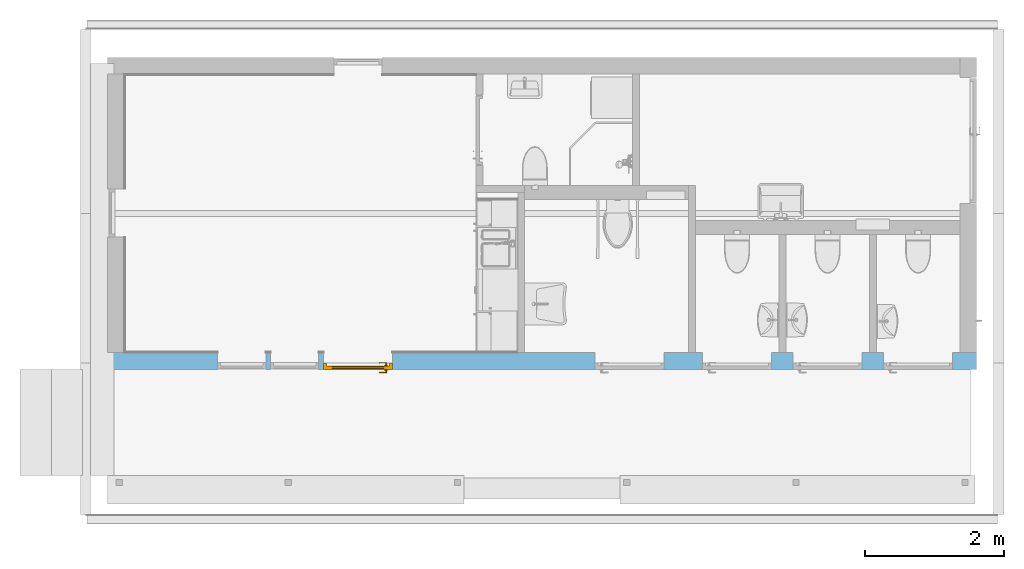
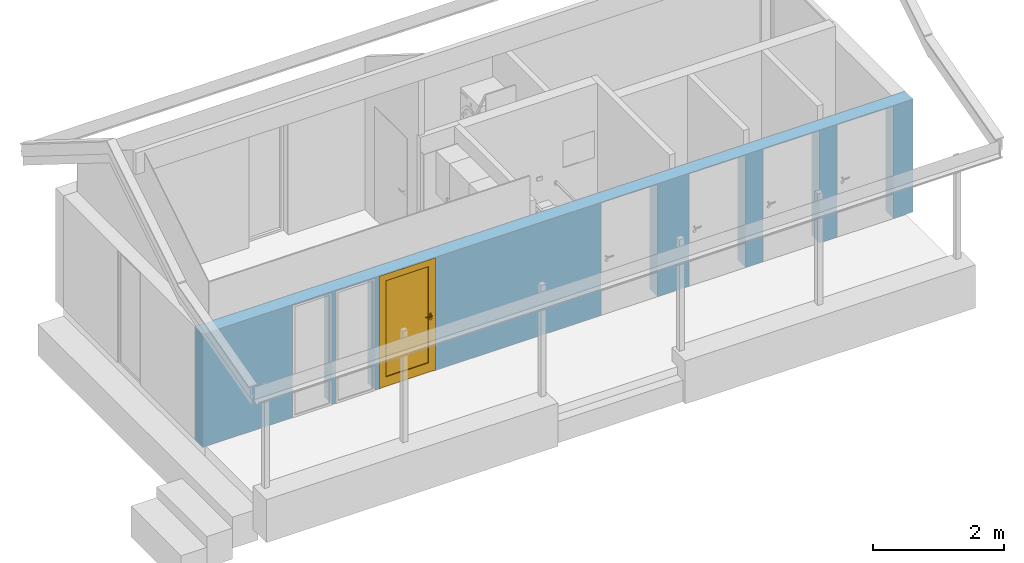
# One storey, part 6 of 15: 1 door, 7 openings, plus 1 element that does not belong to this part.
"""IFC2X3 building model written with IfcOpenShell, lengths in millimetres."""

from ifc_helpers import new_model, entity, si_unit, converted_unit, direction, frame, frame_2d, origin, place, context, subcontext, project, spatial, rectangle, extrude, faceted_brep, source, transform, mapped, material, material_list, layer, layer_set, layer_usage, type_object, type_shapes, element, fill, save


model = new_model("IFC2X3")

# Units and contexts
model_context = context("Model", 3, precision=0.01, world=origin(), true_north=direction((0.0, 1.0)))
body_context = subcontext(model_context, "Body", "Model", "MODEL_VIEW")
ifc_project = project(units=[si_unit("LENGTHUNIT", "METRE", prefix="MILLI"), si_unit("AREAUNIT", "SQUARE_METRE"), si_unit("VOLUMEUNIT", "CUBIC_METRE"), converted_unit("PLANEANGLEUNIT", "DEGREE", entity("IfcPlaneAngleMeasure", 0.017453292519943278), si_unit("PLANEANGLEUNIT", "RADIAN"), dimensions=[0, 0, 0, 0, 0, 0, 0])], contexts=[model_context])

# Site, building, storey
site_placement = place(None, origin())
site = spatial("IfcSite", under=ifc_project, at=site_placement, Name="Default", CompositionType="ELEMENT")
building_placement = place(site_placement, origin())
building = spatial("IfcBuilding", under=site, at=building_placement, CompositionType="ELEMENT")
storey_placement = place(building_placement, origin())
storey = spatial("IfcBuildingStorey", under=building, at=storey_placement, Name="Et. 1", CompositionType="ELEMENT", Elevation=0.0)

# Wall, openings, door
ifc_material_1 = material(Name="Vegg - Dobbelfals Stående Kledning - Mørkegrå")
ifc_layer_1 = layer(ifc_material_1, 19.0)
ifc_material_2 = material(Name="Default Floor")
ifc_layer_2 = layer(ifc_material_2, 36.0)
ifc_layer_3 = layer(ifc_material_2, 23.0)
ifc_layer_4 = layer(ifc_material_2, 12.0)
ifc_material_3 = material(Name="Vegg - Stender - Isolert")
ifc_layer_5 = layer(ifc_material_3, 150.0)
ifc_layer_set = layer_set([ifc_layer_1, ifc_layer_2, ifc_layer_3, ifc_layer_4, ifc_layer_5], Name="Basic Wall:Yttervegg stående kl")
ifc_layer_usage = layer_usage(ifc_layer_set, "AXIS2", "POSITIVE", -120.00000000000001)
wall_type = type_object("IfcWallType", Name="Basic Wall:Yttervegg stående kl", PredefinedType="STANDARD", material=ifc_layer_set)
wall_placement = place(storey_placement, frame((11310.567419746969, 11733.19026124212, 0.0)))
wall = element("IfcWallStandardCase", 1, at=wall_placement, inside=storey, type_object=wall_type, material=ifc_layer_usage, Name="Basic Wall:Yttervegg stående kl", context=body_context, shape_type="SweptSolid", body=[
    extrude(rectangle(XDim=12480.000000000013, YDim=240.00000000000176, at=frame_2d((6240.000000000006, 2.8421709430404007e-13), x_axis=(-1.0, 0.0))), origin(), (0.0, 0.0, 1.0), 2100.0),
])
opening_1_placement = place(wall_placement, frame((4090.0, 120.0, 0.0)))
opening_1 = element("IfcOpeningElement", 2, at=opening_1_placement, cuts=wall, Name="YD Glass:10x21M:1", ObjectType="Opening", context=body_context, shape_type="SweptSolid", body=[
    extrude(rectangle(XDim=990.0000000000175, YDim=2090.0000000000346, at=frame_2d((1045.0000000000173, 495.00000000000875), x_axis=(0.0, 1.0))), frame((0.0, 0.0, 0.0), z_axis=(0.0, -1.0, 0.0), x_axis=(0.0, 0.0, 1.0)), (0.0, 0.0, 1.0), 240.00000000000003),
])
opening_2_placement = place(wall_placement, frame((7990.0, 120.0, 0.0)))
element("IfcOpeningElement", 3, at=opening_2_placement, cuts=wall, Name="YD Hel:10x21M:1", ObjectType="Opening", context=body_context, shape_type="SweptSolid", body=[
    extrude(rectangle(XDim=990.0000000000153, YDim=2090.0000000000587, at=frame_2d((1045.0000000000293, 495.0000000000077), x_axis=(0.0, -1.0))), frame((0.0, 0.0, 0.0), z_axis=(0.0, -1.0, 0.0), x_axis=(0.0, 0.0, 1.0)), (0.0, 0.0, 1.0), 240.00000000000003),
])
opening_3_placement = place(wall_placement, frame((12135.0, 120.0, 0.0)))
element("IfcOpeningElement", 4, at=opening_3_placement, cuts=wall, Name="YD Hel:10x21M:1", ObjectType="Opening", context=body_context, shape_type="SweptSolid", body=[
    extrude(rectangle(XDim=990.0000000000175, YDim=2090.0000000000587, at=frame_2d((1045.0000000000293, 495.00000000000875), x_axis=(0.0, -1.0))), frame((0.0, 0.0, 0.0), z_axis=(0.0, -1.0, 0.0), x_axis=(0.0, 0.0, 1.0)), (0.0, 0.0, 1.0), 240.00000000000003),
])
opening_4_placement = place(wall_placement, frame((10835.0, 120.0, 0.0)))
element("IfcOpeningElement", 5, at=opening_4_placement, cuts=wall, Name="YD Hel:10x21M:1", ObjectType="Opening", context=body_context, shape_type="SweptSolid", body=[
    extrude(rectangle(XDim=990.0000000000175, YDim=2090.0000000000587, at=frame_2d((1045.0000000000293, 495.00000000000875), x_axis=(0.0, -1.0))), frame((0.0, 0.0, 0.0), z_axis=(0.0, -1.0, 0.0), x_axis=(0.0, 0.0, 1.0)), (0.0, 0.0, 1.0), 240.00000000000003),
])
opening_5_placement = place(wall_placement, frame((9535.0, 120.0, 0.0)))
element("IfcOpeningElement", 6, at=opening_5_placement, cuts=wall, Name="YD Hel:10x21M:1", ObjectType="Opening", context=body_context, shape_type="SweptSolid", body=[
    extrude(rectangle(XDim=990.0000000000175, YDim=2090.0000000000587, at=frame_2d((1045.0000000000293, 495.00000000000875), x_axis=(0.0, -1.0))), frame((0.0, 0.0, 0.0), z_axis=(0.0, -1.0, 0.0), x_axis=(0.0, 0.0, 1.0)), (0.0, 0.0, 1.0), 240.00000000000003),
])
opening_6_placement = place(wall_placement, frame((3030.0, 120.0, -10.0)))
element("IfcOpeningElement", 7, at=opening_6_placement, cuts=wall, Name="Hel Rute fast:7x21M:1", ObjectType="Opening", context=body_context, shape_type="SweptSolid", body=[
    extrude(rectangle(XDim=690.0000000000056, YDim=2090.000000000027, at=frame_2d((1045.0000000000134, 345.0000000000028), x_axis=(0.0, -1.0))), frame((0.0, 0.0, 0.0), z_axis=(0.0, -1.0, 0.0), x_axis=(0.0, 0.0, 1.0)), (0.0, 0.0, 1.0), 240.00000000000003),
])
opening_7_placement = place(wall_placement, frame((2270.0, 120.0, -10.0)))
element("IfcOpeningElement", 8, at=opening_7_placement, cuts=wall, Name="Hel Rute fast:7x21M:1", ObjectType="Opening", context=body_context, shape_type="SweptSolid", body=[
    extrude(rectangle(XDim=690.0000000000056, YDim=2090.000000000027, at=frame_2d((1045.0000000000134, 345.0000000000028), x_axis=(0.0, -1.0))), frame((0.0, 0.0, 0.0), z_axis=(0.0, -1.0, 0.0), x_axis=(0.0, 0.0, 1.0)), (0.0, 0.0, 1.0), 240.00000000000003),
])
ifc_material_4 = material(Name="Dør - Håndtak")
ifc_material_5 = material(Name="Glass - Klart")
ifc_material_6 = material(Name="Maling mørkegrå")
ifc_material_list = material_list([ifc_material_4, ifc_material_5, ifc_material_6])
door_style = type_object("IfcDoorStyle", Name="YD Glass:10x21M", ConstructionType="NOTDEFINED", OperationType="SINGLE_SWING_RIGHT", ParameterTakesPrecedence=False, Sizeable=False, material=ifc_material_list)
shared_shape = source(origin(), body_context, "Body", "Brep", [
    faceted_brep([(-36.75926609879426, 150.0, 1061.0), (49.436551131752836, 150.0, 1061.0), (66.22166128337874, 154.49755670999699, 1061.0), (68.80985173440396, 144.83829844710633, 1061.0), (50.75307610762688, 140.0, 1061.0), (-36.75926609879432, 140.0, 1061.0), (-34.429894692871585, 150.0, 1061.3066675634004), (-32.25926609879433, 150.0, 1062.2057713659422), (-30.395305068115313, 150.0, 1063.6360389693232), (-28.965037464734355, 150.0, 1065.500000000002), (-28.06593366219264, 150.0, 1067.6706285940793), (-27.75926609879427, 150.0, 1070.0), (-28.06593366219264, 150.0, 1072.3293714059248), (-28.965037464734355, 150.0, 1074.500000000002), (-30.395305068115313, 150.0, 1076.363961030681), (-32.25926609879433, 150.0, 1077.7942286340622), (-34.429894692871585, 150.0, 1078.6933324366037), (-36.75926609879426, 150.0, 1079.0), (49.436551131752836, 150.0, 1079.0), (-36.75926609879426, 140.0, 1079.0), (50.75307610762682, 140.0, 1079.0), (68.80985173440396, 144.83829844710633, 1079.0), (66.22166128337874, 154.497556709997, 1079.0), (-44.86747275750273, 140.0, 1073.9060190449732), (-45.53319966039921, 140.0, 1072.004517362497), (-45.75926609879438, 140.0, 1070.0), (-45.53319966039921, 140.0, 1067.995482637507), (-44.86747275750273, 140.0, 1066.093980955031), (-43.795454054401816, 140.0, 1064.3882214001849), (-42.37104469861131, 140.0, 1062.9638120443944), (-40.665285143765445, 140.0, 1061.8917933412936), (-38.76310372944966, 140.0, 1061.2259111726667), (-38.76310372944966, 140.0, 1078.7740888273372), (-40.665285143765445, 140.0, 1078.1082066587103), (-42.37104469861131, 140.0, 1077.0361879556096), (-43.795454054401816, 140.0, 1075.611778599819), (-45.75926609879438, 184.0, 1070.0), (-45.45259853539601, 184.0, 1072.3293714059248), (-43.123227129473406, 184.0, 1076.363961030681), (-44.55349473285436, 184.0, 1074.500000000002), (-41.25926609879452, 184.0, 1077.794228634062), (-39.0886375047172, 184.0, 1078.6933324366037), (-36.75926609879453, 184.0, 1079.0), (-34.429894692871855, 184.0, 1078.6933324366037), (-32.259266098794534, 184.0, 1077.7942286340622), (-28.96503746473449, 184.0, 1074.5000000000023), (-30.395305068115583, 184.0, 1076.3639610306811), (-28.065933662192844, 184.0, 1072.3293714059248), (-27.759266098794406, 184.0, 1070.0), (-28.065933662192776, 184.0, 1067.6706285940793), (-28.96503746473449, 184.0, 1065.500000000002), (-32.25926609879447, 184.0, 1062.205771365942), (-30.395305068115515, 184.0, 1063.6360389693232), (-34.429894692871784, 184.0, 1061.3066675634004), (-36.759266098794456, 184.0, 1061.0), (-41.25926609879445, 184.0, 1062.2057713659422), (-39.08863750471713, 184.0, 1061.3066675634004), (-43.123227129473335, 184.0, 1063.6360389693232), (-44.55349473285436, 184.0, 1065.500000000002), (-45.45259853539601, 184.0, 1067.6706285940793), (-25.759266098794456, 184.0, 1089.0525588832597), (-21.202916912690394, 184.0, 1085.5563491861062), (-31.065247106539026, 184.0, 1091.2503681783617), (-36.75926609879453, 184.0, 1092.0), (-42.45328509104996, 184.0, 1091.2503681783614), (-47.75926609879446, 184.0, 1089.0525588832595), (-52.31561528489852, 184.0, 1085.556349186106), (-55.81182498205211, 184.0, 1081.0), (-58.00963427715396, 184.0, 1075.6940189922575), (-58.7592660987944, 184.0, 1070.0), (-58.009634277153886, 184.0, 1064.3059810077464), (-55.811824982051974, 184.0, 1059.0), (-52.315615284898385, 184.0, 1054.4436508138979), (-47.75926609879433, 184.0, 1050.9474411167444), (-42.45328509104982, 184.0, 1048.7496318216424), (-36.75926609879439, 184.0, 1048.0), (-31.06524710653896, 184.0, 1048.7496318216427), (-25.759266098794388, 184.0, 1050.9474411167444), (-21.202916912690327, 184.0, 1054.443650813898), (-17.70670721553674, 184.0, 1059.0), (-15.508897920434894, 184.0, 1064.3059810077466), (-14.759266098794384, 184.0, 1070.0), (-15.508897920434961, 184.0, 1075.6940189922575), (-17.706707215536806, 184.0, 1081.0), (-36.75926609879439, 190.0, 1048.0), (-42.45328509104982, 190.0, 1048.7496318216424), (-47.75926609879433, 190.0, 1050.9474411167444), (-52.315615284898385, 190.0, 1054.4436508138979), (-55.811824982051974, 190.0, 1059.0), (-58.009634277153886, 190.0, 1064.3059810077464), (-58.7592660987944, 190.0, 1070.0), (-58.00963427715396, 190.0, 1075.6940189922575), (-55.81182498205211, 190.0, 1081.0), (-52.31561528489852, 190.0, 1085.556349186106), (-47.75926609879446, 190.0, 1089.0525588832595), (-42.45328509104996, 190.0, 1091.2503681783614), (-36.75926609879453, 190.0, 1092.0), (-31.065247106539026, 190.0, 1091.2503681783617), (-25.759266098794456, 190.0, 1089.0525588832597), (-21.202916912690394, 190.0, 1085.5563491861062), (-17.706707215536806, 190.0, 1081.0), (-15.508897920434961, 190.0, 1075.6940189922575), (-14.759266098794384, 190.0, 1070.0), (-15.508897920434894, 190.0, 1064.3059810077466), (-17.70670721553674, 190.0, 1059.0), (-21.202916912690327, 190.0, 1054.443650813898), (-25.759266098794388, 190.0, 1050.9474411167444), (-31.06524710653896, 190.0, 1048.7496318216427)], [[[0, 1, 2, 3, 4, 5]], [[1, 0, 6, 7, 8, 9, 10, 11, 12, 13, 14, 15, 16, 17, 18]], [[18, 17, 19, 20, 21, 22]], [[23, 24, 25, 26, 27, 28, 29, 30, 31, 5, 4, 20, 19, 32, 33, 34, 35]], [[21, 3, 2, 22]], [[2, 1, 18, 22]], [[21, 20, 4, 3]], [[36, 24, 37]], [[23, 17, 37]], [[17, 38, 39]], [[38, 17, 40]], [[17, 41, 40]], [[37, 17, 39]], [[32, 19, 17]], [[24, 23, 37]], [[36, 25, 24]], [[34, 33, 17]], [[17, 35, 34]], [[23, 35, 17]], [[33, 32, 17]], [[42, 17, 16, 43]], [[43, 16, 15, 44]], [[45, 46, 14, 13]], [[12, 47, 45, 13]], [[14, 46, 44, 15]], [[47, 12, 11, 48]], [[41, 17, 42]], [[48, 11, 10, 49]], [[49, 10, 9, 50]], [[51, 52, 8, 7]], [[6, 53, 51, 7]], [[54, 53, 6, 0]], [[8, 52, 50, 9]], [[5, 31, 0]], [[0, 55, 56]], [[0, 57, 55]], [[58, 0, 59]], [[0, 27, 59]], [[58, 57, 0]], [[59, 26, 36]], [[0, 31, 30]], [[0, 30, 29]], [[0, 28, 27]], [[0, 29, 28]], [[27, 26, 59]], [[26, 25, 36]], [[54, 0, 56]], [[60, 43, 44]], [[60, 44, 61]], [[60, 62, 43]], [[42, 43, 62]], [[63, 42, 62]], [[42, 63, 41]], [[64, 41, 63]], [[64, 40, 41]], [[40, 64, 65]], [[40, 65, 38]], [[66, 38, 65]], [[38, 66, 39]], [[39, 66, 67]], [[39, 67, 37]], [[37, 67, 68]], [[36, 37, 68]], [[69, 36, 68]], [[59, 36, 69]], [[70, 59, 69]], [[58, 59, 70]], [[71, 58, 70]], [[58, 71, 72]], [[57, 58, 72]], [[72, 73, 57]], [[73, 55, 57]], [[55, 73, 74]], [[55, 74, 56]], [[74, 75, 56]], [[54, 56, 75]], [[75, 76, 54]], [[54, 76, 53]], [[77, 53, 76]], [[53, 77, 51]], [[51, 77, 78]], [[52, 51, 78]], [[79, 52, 78]], [[50, 52, 79]], [[80, 50, 79]], [[50, 80, 49]], [[49, 80, 81]], [[81, 48, 49]], [[81, 82, 48]], [[47, 48, 82]], [[83, 47, 82]], [[46, 83, 61]], [[83, 45, 47]], [[45, 83, 46]], [[46, 61, 44]], [[84, 85, 86, 87, 88, 89, 90, 91, 92, 93, 94, 95, 96, 97, 98, 99, 100, 101, 102, 103, 104, 105, 106, 107]], [[90, 69, 68, 91]], [[91, 68, 67, 92]], [[94, 93, 66, 65]], [[66, 93, 92, 67]], [[95, 94, 65, 64]], [[95, 64, 63, 96]], [[96, 63, 62, 97]], [[97, 62, 60, 98]], [[100, 99, 61, 83]], [[61, 99, 98, 60]], [[101, 100, 83, 82]], [[101, 82, 81, 102]], [[102, 81, 80, 103]], [[103, 80, 79, 104]], [[106, 105, 78, 77]], [[78, 105, 104, 79]], [[107, 106, 77, 76]], [[107, 76, 75, 84]], [[84, 75, 74, 85]], [[85, 74, 73, 86]], [[88, 87, 72, 71]], [[72, 87, 86, 73]], [[89, 88, 71, 70]], [[89, 70, 69, 90]]]),
    faceted_brep([(-31.065247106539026, 175.0, 1021.2503681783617), (-36.75926609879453, 175.0, 1022.0), (-42.45328509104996, 175.0, 1021.2503681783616), (-47.75926609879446, 175.0, 1019.0525588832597), (-52.31561528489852, 175.0, 1015.5563491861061), (-55.81182498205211, 175.0, 1011.0), (-58.00963427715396, 175.0, 1005.6940189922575), (-58.7592660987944, 175.0, 1000.0), (-58.009634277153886, 175.0, 994.3059810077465), (-55.811824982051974, 175.0, 989.0), (-52.315615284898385, 175.0, 984.443650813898), (-47.75926609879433, 175.0, 980.9474411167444), (-42.45328509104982, 175.0, 978.7496318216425), (-36.75926609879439, 175.0, 978.0), (-31.06524710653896, 175.0, 978.7496318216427), (-25.759266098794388, 175.0, 980.9474411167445), (-21.202916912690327, 175.0, 984.4436508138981), (-17.70670721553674, 175.0, 989.0), (-15.508897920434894, 175.0, 994.3059810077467), (-14.759266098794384, 175.0, 1000.0), (-15.508897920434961, 175.0, 1005.6940189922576), (-17.706707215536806, 175.0, 1011.0), (-21.202916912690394, 175.0, 1015.5563491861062), (-25.759266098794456, 175.0, 1019.0525588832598), (-31.06524710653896, 190.0, 978.7496318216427), (-36.75926609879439, 190.0, 978.0), (-42.45328509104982, 190.0, 978.7496318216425), (-47.75926609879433, 190.0, 980.9474411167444), (-52.315615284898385, 190.0, 984.443650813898), (-55.811824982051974, 190.0, 989.0), (-58.009634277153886, 190.0, 994.3059810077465), (-58.7592660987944, 190.0, 1000.0), (-58.00963427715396, 190.0, 1005.6940189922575), (-55.81182498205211, 190.0, 1011.0), (-52.31561528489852, 190.0, 1015.5563491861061), (-47.75926609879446, 190.0, 1019.0525588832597), (-42.45328509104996, 190.0, 1021.2503681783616), (-36.75926609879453, 190.0, 1022.0), (-31.065247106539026, 190.0, 1021.2503681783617), (-25.759266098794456, 190.0, 1019.0525588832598), (-21.202916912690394, 190.0, 1015.5563491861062), (-17.706707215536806, 190.0, 1011.0), (-15.508897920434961, 190.0, 1005.6940189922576), (-14.759266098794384, 190.0, 1000.0), (-15.508897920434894, 190.0, 994.3059810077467), (-17.70670721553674, 190.0, 989.0), (-21.202916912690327, 190.0, 984.4436508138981), (-25.759266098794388, 190.0, 980.9474411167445)], [[[0, 1, 2, 3, 4, 5, 6, 7, 8, 9, 10, 11, 12, 13, 14, 15, 16, 17, 18, 19, 20, 21, 22, 23]], [[24, 25, 26, 27, 28, 29, 30, 31, 32, 33, 34, 35, 36, 37, 38, 39, 40, 41, 42, 43, 44, 45, 46, 47]], [[31, 7, 6, 32]], [[32, 6, 5, 33]], [[35, 34, 4, 3]], [[4, 34, 33, 5]], [[36, 35, 3, 2]], [[36, 2, 1, 37]], [[37, 1, 0, 38]], [[38, 0, 23, 39]], [[41, 40, 22, 21]], [[22, 40, 39, 23]], [[42, 41, 21, 20]], [[42, 20, 19, 43]], [[43, 19, 18, 44]], [[44, 18, 17, 45]], [[47, 46, 16, 15]], [[16, 46, 45, 17]], [[24, 47, 15, 14]], [[24, 14, 13, 25]], [[25, 13, 12, 26]], [[26, 12, 11, 27]], [[29, 28, 10, 9]], [[27, 11, 10, 28]], [[7, 31, 30, 8]], [[29, 9, 8, 30]]]),
    faceted_brep([(-36.75926609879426, 290.0, 1061.0), (50.75307610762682, 290.0, 1061.0), (68.80985173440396, 285.1617015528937, 1061.0), (66.22166128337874, 275.5024432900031, 1061.0), (49.436551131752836, 280.0, 1061.0), (-36.75926609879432, 280.0, 1061.0), (-34.429894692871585, 280.0, 1061.3066675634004), (49.436551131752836, 280.0, 1079.0), (-36.75926609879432, 280.0, 1079.0), (-34.429894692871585, 280.0, 1078.6933324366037), (-32.25926609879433, 280.0, 1077.7942286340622), (-30.395305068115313, 280.0, 1076.363961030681), (-28.965037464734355, 280.0, 1074.500000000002), (-28.06593366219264, 280.0, 1072.3293714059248), (-27.75926609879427, 280.0, 1070.0), (-28.06593366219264, 280.0, 1067.6706285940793), (-28.965037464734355, 280.0, 1065.500000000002), (-30.395305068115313, 280.0, 1063.6360389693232), (-32.25926609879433, 280.0, 1062.2057713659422), (-36.75926609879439, 290.0, 1079.0), (66.22166128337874, 275.50244329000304, 1079.0), (68.80985173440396, 285.1617015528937, 1079.0), (50.75307610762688, 290.0, 1079.0), (-45.75926609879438, 290.0, 1070.0), (-45.53319966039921, 290.0, 1072.004517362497), (-44.86747275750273, 290.0, 1073.9060190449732), (-43.795454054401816, 290.0, 1075.611778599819), (-42.37104469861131, 290.0, 1077.0361879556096), (-40.665285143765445, 290.0, 1078.1082066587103), (-38.76310372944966, 290.0, 1078.7740888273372), (-38.76310372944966, 290.0, 1061.2259111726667), (-40.665285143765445, 290.0, 1061.8917933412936), (-42.37104469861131, 290.0, 1062.9638120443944), (-43.795454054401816, 290.0, 1064.3882214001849), (-44.86747275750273, 290.0, 1066.093980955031), (-45.53319966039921, 290.0, 1067.995482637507), (-45.45259853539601, 246.0, 1072.3293714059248), (-45.75926609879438, 246.0, 1070.0), (-44.55349473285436, 246.0, 1074.500000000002), (-43.123227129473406, 246.0, 1076.363961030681), (-41.25926609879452, 246.0, 1077.794228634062), (-39.0886375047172, 246.0, 1078.6933324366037), (-34.429894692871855, 246.0, 1078.6933324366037), (-36.75926609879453, 246.0, 1079.0), (-32.259266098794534, 246.0, 1077.7942286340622), (-30.395305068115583, 246.0, 1076.3639610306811), (-28.96503746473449, 246.0, 1074.5000000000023), (-28.065933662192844, 246.0, 1072.3293714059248), (-27.759266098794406, 246.0, 1070.0), (-28.065933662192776, 246.0, 1067.6706285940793), (-28.96503746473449, 246.0, 1065.500000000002), (-30.395305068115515, 246.0, 1063.6360389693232), (-32.25926609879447, 246.0, 1062.205771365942), (-34.429894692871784, 246.0, 1061.3066675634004), (-36.759266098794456, 246.0, 1061.0), (-39.08863750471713, 246.0, 1061.3066675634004), (-41.25926609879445, 246.0, 1062.2057713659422), (-43.123227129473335, 246.0, 1063.6360389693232), (-45.45259853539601, 246.0, 1067.6706285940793), (-44.55349473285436, 246.0, 1065.500000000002), (-25.759266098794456, 246.0, 1089.0525588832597), (-21.202916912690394, 246.0, 1085.5563491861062), (-31.065247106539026, 246.0, 1091.2503681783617), (-36.75926609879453, 246.0, 1092.0), (-42.45328509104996, 246.0, 1091.2503681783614), (-47.75926609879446, 246.0, 1089.0525588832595), (-52.31561528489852, 246.0, 1085.556349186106), (-55.81182498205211, 246.0, 1081.0), (-58.00963427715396, 246.0, 1075.6940189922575), (-58.7592660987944, 246.0, 1070.0), (-58.009634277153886, 246.0, 1064.3059810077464), (-55.811824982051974, 246.0, 1059.0), (-52.315615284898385, 246.0, 1054.4436508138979), (-47.75926609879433, 246.0, 1050.9474411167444), (-42.45328509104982, 246.0, 1048.7496318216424), (-36.75926609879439, 246.0, 1048.0), (-31.06524710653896, 246.0, 1048.7496318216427), (-25.759266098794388, 246.0, 1050.9474411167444), (-21.202916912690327, 246.0, 1054.443650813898), (-17.70670721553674, 246.0, 1059.0), (-15.508897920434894, 246.0, 1064.3059810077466), (-14.759266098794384, 246.0, 1070.0), (-15.508897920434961, 246.0, 1075.6940189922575), (-17.706707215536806, 246.0, 1081.0), (-31.06524710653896, 240.0, 1048.7496318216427), (-25.759266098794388, 240.0, 1050.9474411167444), (-21.202916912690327, 240.0, 1054.443650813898), (-17.70670721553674, 240.0, 1059.0), (-15.508897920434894, 240.0, 1064.3059810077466), (-14.759266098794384, 240.0, 1070.0), (-15.508897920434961, 240.0, 1075.6940189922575), (-17.706707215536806, 240.0, 1081.0), (-21.202916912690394, 240.0, 1085.5563491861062), (-25.759266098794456, 240.0, 1089.0525588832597), (-31.065247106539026, 240.0, 1091.2503681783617), (-36.75926609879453, 240.0, 1092.0), (-42.45328509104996, 240.0, 1091.2503681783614), (-47.75926609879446, 240.0, 1089.0525588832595), (-52.31561528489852, 240.0, 1085.556349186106), (-55.81182498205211, 240.0, 1081.0), (-58.00963427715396, 240.0, 1075.6940189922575), (-58.7592660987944, 240.0, 1070.0), (-58.009634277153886, 240.0, 1064.3059810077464), (-55.811824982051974, 240.0, 1059.0), (-52.315615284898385, 240.0, 1054.4436508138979), (-47.75926609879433, 240.0, 1050.9474411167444), (-42.45328509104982, 240.0, 1048.7496318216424), (-36.75926609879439, 240.0, 1048.0)], [[[0, 1, 2, 3, 4, 5]], [[6, 5, 4, 7, 8, 9, 10, 11, 12, 13, 14, 15, 16, 17, 18]], [[19, 8, 7, 20, 21, 22]], [[23, 24, 25, 26, 27, 28, 29, 19, 22, 1, 0, 30, 31, 32, 33, 34, 35]], [[3, 2, 21, 20]], [[7, 4, 3, 20]], [[1, 22, 21, 2]], [[36, 24, 37]], [[36, 8, 25]], [[38, 39, 8]], [[40, 8, 39]], [[40, 41, 8]], [[38, 8, 36]], [[8, 19, 29]], [[36, 25, 24]], [[24, 23, 37]], [[8, 28, 27]], [[27, 26, 8]], [[8, 26, 25]], [[8, 29, 28]], [[42, 9, 8, 43]], [[44, 10, 9, 42]], [[12, 11, 45, 46]], [[46, 47, 13, 12]], [[44, 45, 11, 10]], [[48, 14, 13, 47]], [[43, 8, 41]], [[49, 15, 14, 48]], [[50, 16, 15, 49]], [[18, 17, 51, 52]], [[52, 53, 6, 18]], [[5, 6, 53, 54]], [[50, 51, 17, 16]], [[5, 30, 0]], [[55, 56, 5]], [[56, 57, 5]], [[58, 5, 59]], [[58, 34, 5]], [[5, 57, 59]], [[37, 35, 58]], [[31, 30, 5]], [[32, 31, 5]], [[34, 33, 5]], [[33, 32, 5]], [[58, 35, 34]], [[37, 23, 35]], [[55, 5, 54]], [[44, 42, 60]], [[61, 44, 60]], [[44, 61, 45]], [[42, 62, 60]], [[62, 42, 43]], [[62, 43, 63]], [[41, 63, 43]], [[63, 41, 64]], [[41, 40, 64]], [[65, 64, 40]], [[39, 65, 40]], [[65, 39, 66]], [[38, 66, 39]], [[67, 66, 38]], [[36, 67, 38]], [[68, 67, 36]], [[68, 36, 37]], [[68, 37, 69]], [[69, 37, 58]], [[69, 58, 70]], [[70, 58, 59]], [[70, 59, 71]], [[72, 71, 59]], [[72, 59, 57]], [[57, 73, 72]], [[57, 56, 73]], [[74, 73, 56]], [[55, 74, 56]], [[55, 75, 74]], [[75, 55, 54]], [[54, 76, 75]], [[53, 76, 54]], [[76, 53, 77]], [[52, 77, 53]], [[78, 77, 52]], [[78, 52, 51]], [[78, 51, 79]], [[79, 51, 50]], [[79, 50, 80]], [[49, 80, 50]], [[81, 80, 49]], [[49, 48, 81]], [[48, 82, 81]], [[82, 48, 47]], [[82, 47, 83]], [[47, 46, 83]], [[45, 83, 46]], [[61, 83, 45]], [[84, 85, 86, 87, 88, 89, 90, 91, 92, 93, 94, 95, 96, 97, 98, 99, 100, 101, 102, 103, 104, 105, 106, 107]], [[100, 68, 69, 101]], [[99, 67, 68, 100]], [[65, 66, 98, 97]], [[99, 98, 66, 67]], [[64, 65, 97, 96]], [[63, 64, 96, 95]], [[94, 62, 63, 95]], [[93, 60, 62, 94]], [[83, 61, 92, 91]], [[93, 92, 61, 60]], [[82, 83, 91, 90]], [[81, 82, 90, 89]], [[88, 80, 81, 89]], [[87, 79, 80, 88]], [[77, 78, 86, 85]], [[87, 86, 78, 79]], [[76, 77, 85, 84]], [[75, 76, 84, 107]], [[106, 74, 75, 107]], [[105, 73, 74, 106]], [[71, 72, 104, 103]], [[105, 104, 72, 73]], [[70, 71, 103, 102]], [[69, 70, 102, 101]]]),
    faceted_brep([(-25.759266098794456, 255.0, 1019.0525588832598), (-21.202916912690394, 255.0, 1015.5563491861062), (-17.706707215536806, 255.0, 1011.0), (-15.508897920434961, 255.0, 1005.6940189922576), (-14.759266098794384, 255.0, 1000.0), (-15.508897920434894, 255.0, 994.3059810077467), (-17.70670721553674, 255.0, 989.0), (-21.202916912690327, 255.0, 984.4436508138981), (-25.759266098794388, 255.0, 980.9474411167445), (-31.06524710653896, 255.0, 978.7496318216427), (-36.75926609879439, 255.0, 978.0), (-42.45328509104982, 255.0, 978.7496318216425), (-47.75926609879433, 255.0, 980.9474411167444), (-52.315615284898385, 255.0, 984.443650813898), (-55.811824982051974, 255.0, 989.0), (-58.009634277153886, 255.0, 994.3059810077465), (-58.7592660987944, 255.0, 1000.0), (-58.00963427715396, 255.0, 1005.6940189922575), (-55.81182498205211, 255.0, 1011.0), (-52.31561528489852, 255.0, 1015.5563491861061), (-47.75926609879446, 255.0, 1019.0525588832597), (-42.45328509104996, 255.0, 1021.2503681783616), (-36.75926609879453, 255.0, 1022.0), (-31.065247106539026, 255.0, 1021.2503681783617), (-42.45328509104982, 240.0, 978.7496318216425), (-36.75926609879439, 240.0, 978.0), (-31.06524710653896, 240.0, 978.7496318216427), (-25.759266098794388, 240.0, 980.9474411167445), (-21.202916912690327, 240.0, 984.4436508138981), (-17.70670721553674, 240.0, 989.0), (-15.508897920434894, 240.0, 994.3059810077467), (-14.759266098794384, 240.0, 1000.0), (-15.508897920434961, 240.0, 1005.6940189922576), (-17.706707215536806, 240.0, 1011.0), (-21.202916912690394, 240.0, 1015.5563491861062), (-25.759266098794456, 240.0, 1019.0525588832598), (-31.065247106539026, 240.0, 1021.2503681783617), (-36.75926609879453, 240.0, 1022.0), (-42.45328509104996, 240.0, 1021.2503681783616), (-47.75926609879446, 240.0, 1019.0525588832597), (-52.31561528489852, 240.0, 1015.5563491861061), (-55.81182498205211, 240.0, 1011.0), (-58.00963427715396, 240.0, 1005.6940189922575), (-58.7592660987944, 240.0, 1000.0), (-58.009634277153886, 240.0, 994.3059810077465), (-55.811824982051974, 240.0, 989.0), (-52.315615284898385, 240.0, 984.443650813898), (-47.75926609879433, 240.0, 980.9474411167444)], [[[0, 1, 2, 3, 4, 5, 6, 7, 8, 9, 10, 11, 12, 13, 14, 15, 16, 17, 18, 19, 20, 21, 22, 23]], [[24, 25, 26, 27, 28, 29, 30, 31, 32, 33, 34, 35, 36, 37, 38, 39, 40, 41, 42, 43, 44, 45, 46, 47]], [[42, 17, 16, 43]], [[41, 18, 17, 42]], [[20, 19, 40, 39]], [[41, 40, 19, 18]], [[21, 20, 39, 38]], [[22, 21, 38, 37]], [[36, 23, 22, 37]], [[35, 0, 23, 36]], [[2, 1, 34, 33]], [[35, 34, 1, 0]], [[3, 2, 33, 32]], [[4, 3, 32, 31]], [[30, 5, 4, 31]], [[29, 6, 5, 30]], [[8, 7, 28, 27]], [[29, 28, 7, 6]], [[9, 8, 27, 26]], [[10, 9, 26, 25]], [[24, 11, 10, 25]], [[47, 12, 11, 24]], [[14, 13, 46, 45]], [[46, 13, 12, 47]], [[15, 44, 43, 16]], [[15, 14, 45, 44]]]),
    faceted_brep([(741.240733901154, 225.0, 1968.0), (741.240733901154, 225.0, 180.0), (-4.759266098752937, 225.0, 180.0), (-4.759266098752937, 225.0, 1968.0), (741.240733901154, 205.0, 1968.0), (-4.759266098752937, 205.0, 1968.0), (-4.759266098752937, 205.0, 180.0), (741.240733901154, 205.0, 180.0)], [[[0, 1, 2, 3]], [[4, 5, 6, 7]], [[3, 5, 4, 0]], [[2, 6, 5, 3]], [[1, 7, 6, 2]], [[0, 4, 7, 1]]]),
    faceted_brep([(-84.75926609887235, 240.0, 0.0), (-84.75926609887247, 148.0, 0.0), (-126.75926609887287, 148.0, 0.0), (-126.7592660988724, 240.0, 0.0), (-126.75926609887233, 240.0, 2090.0), (863.2407339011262, 240.0, 2090.0), (863.2407339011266, 240.0, 0.0), (821.2407339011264, 240.0, 0.0), (821.2407339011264, 240.0, 2048.0), (-84.75926609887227, 240.0, 2048.0), (-126.75926609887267, 148.0, 2090.0), (-84.75926609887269, 148.0, 2048.0), (821.2407339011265, 148.0, 2048.0), (821.2407339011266, 148.0, 0.0), (863.240733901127, 148.0, 0.0), (863.2407339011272, 148.0, 2090.0)], [[[0, 1, 2, 3]], [[3, 4, 5, 6, 7, 8, 9, 0]], [[2, 10, 4, 3]], [[1, 11, 12, 13, 14, 15, 10, 2]], [[0, 9, 11, 1]], [[10, 15, 5, 4]], [[9, 8, 12, 11]], [[7, 6, 14, 13]], [[15, 14, 6, 5]], [[8, 7, 13, 12]]]),
    faceted_brep([(821.2407339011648, 190.0, 5.0), (821.2407339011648, 190.0, 2048.0), (-84.75926609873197, 190.0, 2048.0), (-84.75926609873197, 190.0, 5.0), (741.240733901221, 190.0, 1968.0), (741.240733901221, 190.0, 180.0), (-4.75926609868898, 190.0, 180.0), (-4.759266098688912, 190.0, 1968.0), (821.2407339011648, 240.0, 5.0), (-84.75926609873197, 240.0, 5.0), (-84.75926609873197, 240.0, 2048.0), (821.2407339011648, 240.0, 2048.0), (741.240733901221, 240.0, 1968.0), (-4.759266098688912, 240.0, 1968.0), (-4.75926609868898, 240.0, 180.0), (741.240733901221, 240.0, 180.0)], [[[0, 1, 2, 3], [4, 5, 6, 7]], [[8, 9, 10, 11], [12, 13, 14, 15]], [[3, 9, 8, 0]], [[2, 10, 9, 3]], [[1, 11, 10, 2]], [[0, 8, 11, 1]], [[7, 13, 12, 4]], [[6, 14, 13, 7]], [[5, 15, 14, 6]], [[4, 12, 15, 5]]]),
])
type_shapes(door_style, [shared_shape])
door_placement = place(opening_1_placement, frame((-126.75926609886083, 0.0, 0.0), z_axis=(0.0, 0.0, 1.0), x_axis=(-1.0, 0.0, 0.0)))
door = element("IfcDoor", 9, at=door_placement, inside=storey, type_object=door_style, material=ifc_material_list, Name="YD Glass:10x21M", OverallHeight=2090.0000000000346, OverallWidth=990.0000000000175, context=body_context, shape_type="MappedRepresentation", body=[
    mapped(shared_shape, transform((0.0, 0.0, 0.0), scale=1.0)),
])
fill(opening_1, door)

save(model, "model.ifc")
